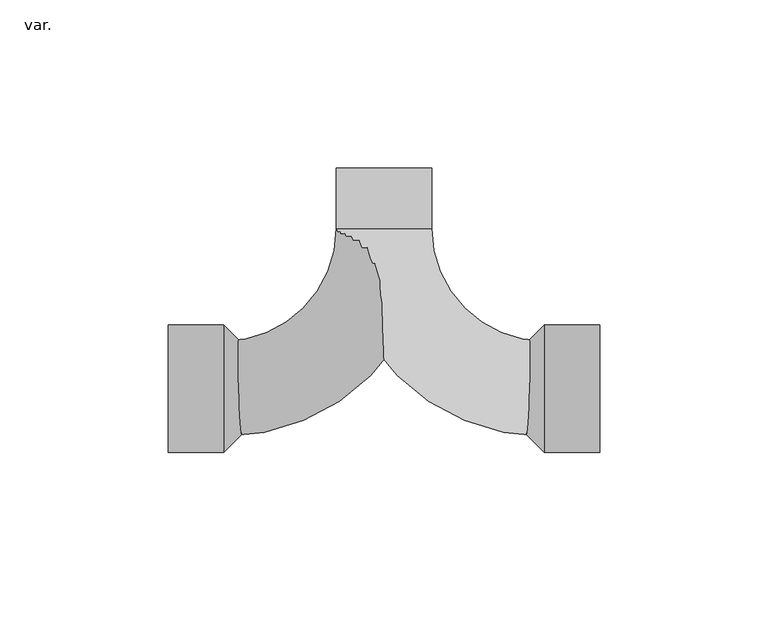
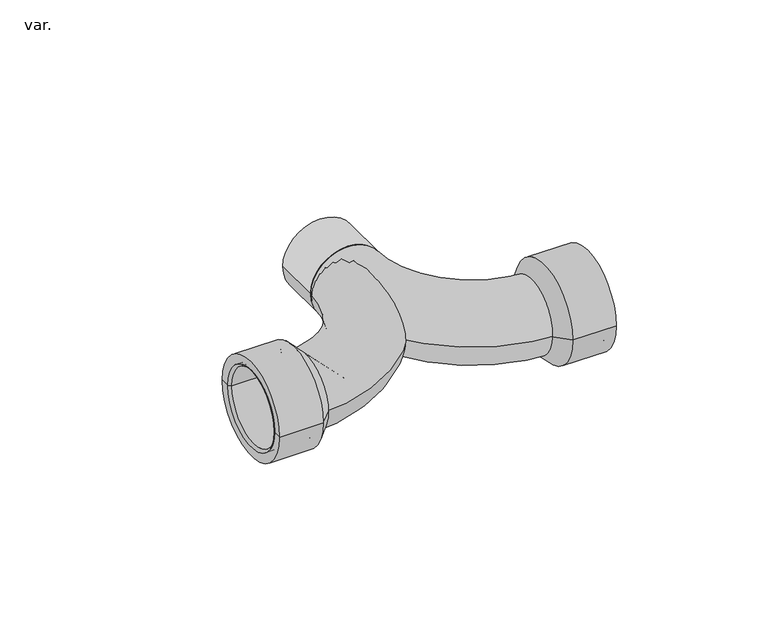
"""IFC4 building model written with IfcOpenShell, lengths in millimetres: pipe fitting geometry, AmancoWavin_ConexõesdeTubos_CPVCFlowGuardTêMisturador : var.."""

from ifc_helpers import new_model, si_unit, point, frame, origin, place, context, project, spatial, polyline, circle_curve, ellipse_curve, trimmed, source, transform, mapped, element, save
from ifc_brep_helpers import plane_surface, cylinder_surface, revolved_surface, advanced_brep


def var_d6b9dcd6(model_context):
    return source(origin(), model_context, "Body", "AdvancedBrep", [
        advanced_brep(
        [(14.15, 47.53, 0.0), (-14.15, 47.53, 0.0), (-14.15, 65.53, 0.0), (14.15, 65.53, 0.0), (11.125, 47.53, 0.0), (-11.125, 47.53, 0.0), (11.125, 65.53, 0.0), (-11.125, 65.53, 0.0)],
        [
            (0, 1, circle_curve(frame((0.0, 47.53, 0.0), z_axis=(0.0, 1.0, 0.0), x_axis=(-1.0, 0.0, 0.0)), 14.15)),
            (1, 2),
            (2, 3, circle_curve(frame((0.0, 65.53, 0.0), z_axis=(0.0, -1.0, 0.0), x_axis=(-1.0, 0.0, 0.0)), 14.15)),
            (3, 0),
            (1, 0, circle_curve(frame((0.0, 47.53, 0.0), z_axis=(0.0, 1.0, 0.0), x_axis=(-1.0, 0.0, 0.0)), 14.15)),
            (3, 2, circle_curve(frame((0.0, 65.53, 0.0), z_axis=(0.0, -1.0, 0.0), x_axis=(-1.0, 0.0, 0.0)), 14.15)),
            (4, 5, circle_curve(frame((0.0, 47.53, 0.0), z_axis=(0.0, 1.0, 0.0), x_axis=(-1.0, 0.0, 0.0)), 11.125)),
            (5, 1),
            (0, 4),
            (5, 4, circle_curve(frame((0.0, 47.53, 0.0), z_axis=(0.0, 1.0, 0.0), x_axis=(-1.0, 0.0, 0.0)), 11.125)),
            (6, 7, circle_curve(frame((0.0, 65.53, 0.0), z_axis=(0.0, 1.0, 0.0), x_axis=(-1.0, 0.0, 0.0)), 11.125)),
            (7, 5),
            (4, 6),
            (7, 6, circle_curve(frame((0.0, 65.53, 0.0), z_axis=(0.0, 1.0, 0.0), x_axis=(-1.0, 0.0, 0.0)), 11.125)),
            (2, 7),
            (6, 3),
        ],
        [
            cylinder_surface(frame((0.0, -2000.0, 0.0), z_axis=(0.0, -1.0, 0.0), x_axis=(-1.0, 0.0, 0.0)), 14.15),
            plane_surface(frame((0.0, 47.53, 0.0), z_axis=(0.0, -1.0, 0.0), x_axis=(-1.0, 0.0, 0.0))),
            revolved_surface(polyline([(-11.125, 47.52999999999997, 0.0), (-11.125, 65.5300000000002, 0.0)]), (0.0, -2000.0, 0.0), (0.0, -1.0, 0.0)),
            plane_surface(frame((0.0, 65.53, 0.0), z_axis=(0.0, 1.0, 0.0), x_axis=(-1.0, 0.0, 0.0))),
        ],
        [
            (0, [[1, 2, 3, 4]]),
            (0, [[5, -4, 6, -2]]),
            (1, [[7, 8, -1, 9]]),
            (1, [[10, -9, -5, -8]]),
            (2, [[11, 12, -7, 13]]),
            (2, [[14, -13, -10, -12]]),
            (3, [[-3, 15, -11, 16]]),
            (3, [[-6, -16, -14, -15]]),
        ],
    ),
        advanced_brep(
        [(47.53, 14.15, 0.0), (47.53, -14.15, 0.0), (14.15, 47.53, 0.0), (-14.15, 47.53, 0.0)],
        [
            (0, 1, circle_curve(frame((47.53, 0.0, 0.0), z_axis=(1.0, 0.0, 0.0), x_axis=(0.0, -1.0, 0.0)), 14.15)),
            (1, 0, circle_curve(frame((47.53, 0.0, 0.0), z_axis=(1.0, 0.0, 0.0), x_axis=(0.0, -1.0, 0.0)), 14.15)),
            (2, 3, circle_curve(frame((0.0, 47.53, 0.0), z_axis=(0.0, 1.0, 0.0), x_axis=(-1.0, 0.0, 0.0)), 14.15)),
            (3, 2, circle_curve(frame((0.0, 47.53, 0.0), z_axis=(0.0, 1.0, 0.0), x_axis=(-1.0, 0.0, 0.0)), 14.15)),
            (3, 1, circle_curve(frame((47.53, 47.53, 0.0), z_axis=(0.0, 0.0, 1.0), x_axis=(0.0, -1.0, 0.0)), 61.68)),
            (0, 2, circle_curve(frame((47.53, 47.53, 0.0), z_axis=(0.0, 0.0, -1.0), x_axis=(0.0, -1.0, 0.0)), 33.38)),
        ],
        [
            plane_surface(frame((47.53, 0.0, 0.0), z_axis=(1.0, 0.0, 0.0), x_axis=(0.0, 0.0, 1.0))),
            plane_surface(frame((0.0, 47.53, 0.0), z_axis=(0.0, 1.0, 0.0), x_axis=(0.0, 0.0, 1.0))),
            revolved_surface(trimmed(ellipse_curve(frame((47.53, 0.0, 0.0), z_axis=(1.0, 0.0, 0.0), x_axis=(0.0, -1.0, 0.0)), 14.15, 14.15), [point((47.53, 14.15, 0.0))], [point((47.53, -14.15, 0.0))], True, "CARTESIAN"), (47.53, 47.53, 0.0), (0.0, 0.0, -1.0)),
            revolved_surface(trimmed(ellipse_curve(frame((47.53, 0.0, 0.0), z_axis=(1.0, 0.0, 0.0), x_axis=(0.0, -1.0, 0.0)), 14.15, 14.15), [point((47.53, -14.15, 0.0))], [point((47.53, 14.15, 0.0))], True, "CARTESIAN"), (47.53, 47.53, 0.0), (0.0, 0.0, -1.0)),
        ],
        [
            (0, [[1, 2]]),
            (1, [[3, 4]]),
            (2, [[5, -1, 6, -4]]),
            (3, [[-6, -2, -5, -3]]),
        ],
    ),
        advanced_brep(
        [(-47.53, -14.15, 0.0), (-47.53, 14.15, 0.0), (14.15, 47.53, 0.0), (-14.15, 47.53, 0.0)],
        [
            (0, 1, circle_curve(frame((-47.53, 0.0, 0.0), z_axis=(-1.0, 0.0, 0.0), x_axis=(0.0, 1.0, 0.0)), 14.15)),
            (1, 0, circle_curve(frame((-47.53, 0.0, 0.0), z_axis=(-1.0, 0.0, 0.0), x_axis=(0.0, 1.0, 0.0)), 14.15)),
            (2, 3, circle_curve(frame((0.0, 47.53, 0.0), z_axis=(0.0, 1.0, 0.0), x_axis=(-1.0, 0.0, 0.0)), 14.15)),
            (3, 2, circle_curve(frame((0.0, 47.53, 0.0), z_axis=(0.0, 1.0, 0.0), x_axis=(-1.0, 0.0, 0.0)), 14.15)),
            (3, 1, circle_curve(frame((-47.53, 47.53, 0.0), z_axis=(0.0, 0.0, -1.0), x_axis=(0.0, -1.0, 0.0)), 33.38)),
            (0, 2, circle_curve(frame((-47.53, 47.53, 0.0), z_axis=(0.0, 0.0, 1.0), x_axis=(0.0, -1.0, 0.0)), 61.68)),
        ],
        [
            plane_surface(frame((-47.53, 0.0, 0.0), z_axis=(-1.0, 0.0, 0.0), x_axis=(0.0, 0.0, 1.0))),
            plane_surface(frame((0.0, 47.53, 0.0), z_axis=(0.0, 1.0, 0.0), x_axis=(0.0, 0.0, 1.0))),
            revolved_surface(trimmed(ellipse_curve(frame((-47.53, 0.0, 0.0), z_axis=(-1.0, 0.0, 0.0), x_axis=(0.0, 1.0, 0.0)), 14.15, 14.15), [point((-47.53, -14.15, 0.0))], [point((-47.53, 14.15, 0.0))], True, "CARTESIAN"), (-47.53, 47.53, 0.0), (0.0, 0.0, 1.0)),
            revolved_surface(trimmed(ellipse_curve(frame((-47.53, 0.0, 0.0), z_axis=(-1.0, 0.0, 0.0), x_axis=(0.0, 1.0, 0.0)), 14.15, 14.15), [point((-47.53, 14.15, 0.0))], [point((-47.53, -14.15, 0.0))], True, "CARTESIAN"), (-47.53, 47.53, 0.0), (0.0, 0.0, 1.0)),
        ],
        [
            (0, [[1, 2]]),
            (1, [[3, 4]]),
            (2, [[5, -1, 6, -4]]),
            (3, [[-6, -2, -5, -3]]),
        ],
    ),
        advanced_brep(
        [(-47.53, -14.4, 0.0), (-47.53, 14.4, 0.0), (-63.04, 14.4, 0.0), (-63.04, -14.4, 0.0), (-47.53, -15.4, 0.0), (-47.53, 15.4, 0.0), (-64.04, -15.4, 0.0), (-64.04, 15.4, 0.0)],
        [
            (0, 1, circle_curve(frame((-47.53, 0.0, 0.0), z_axis=(1.0, 0.0, 0.0), x_axis=(0.0, 1.0, 0.0)), 14.4)),
            (1, 2),
            (2, 3, circle_curve(frame((-63.04, 0.0, 0.0), z_axis=(-1.0, 0.0, 0.0), x_axis=(0.0, 1.0, 0.0)), 14.4)),
            (3, 0),
            (1, 0, circle_curve(frame((-47.53, 0.0, 0.0), z_axis=(1.0, 0.0, 0.0), x_axis=(0.0, 1.0, 0.0)), 14.4)),
            (3, 2, circle_curve(frame((-63.04, 0.0, 0.0), z_axis=(-1.0, 0.0, 0.0), x_axis=(0.0, 1.0, 0.0)), 14.4)),
            (4, 5, circle_curve(frame((-47.53, 0.0, 0.0), z_axis=(1.0, 0.0, 0.0), x_axis=(0.0, 1.0, 0.0)), 15.4)),
            (5, 1),
            (0, 4),
            (5, 4, circle_curve(frame((-47.53, 0.0, 0.0), z_axis=(1.0, 0.0, 0.0), x_axis=(0.0, 1.0, 0.0)), 15.4)),
            (6, 7, circle_curve(frame((-64.04, 0.0, 0.0), z_axis=(1.0, 0.0, 0.0), x_axis=(0.0, 1.0, 0.0)), 15.4)),
            (7, 5),
            (4, 6),
            (7, 6, circle_curve(frame((-64.04, 0.0, 0.0), z_axis=(1.0, 0.0, 0.0), x_axis=(0.0, 1.0, 0.0)), 15.4)),
            (2, 7),
            (6, 3),
        ],
        [
            revolved_surface(polyline([(-63.039999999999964, 14.4, 0.0), (-47.52999999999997, 14.4, 0.0)]), (-2000.247264, 0.0, 0.0), (-1.0, 0.0, 0.0)),
            plane_surface(frame((-47.53, 0.0, 0.0), z_axis=(1.0, 0.0, 0.0), x_axis=(0.0, 1.0, 0.0))),
            cylinder_surface(frame((-2000.247264, 0.0, 0.0), z_axis=(-1.0, 0.0, 0.0), x_axis=(0.0, 1.0, 0.0)), 15.4),
            revolved_surface(polyline([(-64.04, 15.4, 0.0), (-63.04, 14.4, 0.0)]), (-2000.247264, 0.0, 0.0), (-1.0, 0.0, 0.0)),
        ],
        [
            (0, [[1, 2, 3, 4]]),
            (0, [[5, -4, 6, -2]]),
            (1, [[7, 8, -1, 9]]),
            (1, [[10, -9, -5, -8]]),
            (2, [[11, 12, -7, 13]]),
            (2, [[14, -13, -10, -12]]),
            (3, [[-3, 15, -11, 16]]),
            (3, [[-6, -16, -14, -15]]),
        ],
    ),
        advanced_brep(
        [(64.04, -15.4, 0.0), (64.04, 15.4, 0.0), (63.04, 14.4, 0.0), (63.04, -14.4, 0.0), (47.53, -15.4, 0.0), (47.53, 15.4, 0.0), (47.53, -14.4, 0.0), (47.53, 14.4, 0.0)],
        [
            (0, 1, circle_curve(frame((64.04, 0.0, 0.0), z_axis=(1.0, 0.0, 0.0), x_axis=(0.0, 1.0, 0.0)), 15.4)),
            (1, 2),
            (2, 3, circle_curve(frame((63.04, 0.0, 0.0), z_axis=(-1.0, 0.0, 0.0), x_axis=(0.0, 1.0, 0.0)), 14.4)),
            (3, 0),
            (1, 0, circle_curve(frame((64.04, 0.0, 0.0), z_axis=(1.0, 0.0, 0.0), x_axis=(0.0, 1.0, 0.0)), 15.4)),
            (3, 2, circle_curve(frame((63.04, 0.0, 0.0), z_axis=(-1.0, 0.0, 0.0), x_axis=(0.0, 1.0, 0.0)), 14.4)),
            (4, 5, circle_curve(frame((47.53, 0.0, 0.0), z_axis=(1.0, 0.0, 0.0), x_axis=(0.0, 1.0, 0.0)), 15.4)),
            (5, 1),
            (0, 4),
            (5, 4, circle_curve(frame((47.53, 0.0, 0.0), z_axis=(1.0, 0.0, 0.0), x_axis=(0.0, 1.0, 0.0)), 15.4)),
            (6, 7, circle_curve(frame((47.53, 0.0, 0.0), z_axis=(1.0, 0.0, 0.0), x_axis=(0.0, 1.0, 0.0)), 14.4)),
            (7, 5),
            (4, 6),
            (7, 6, circle_curve(frame((47.53, 0.0, 0.0), z_axis=(1.0, 0.0, 0.0), x_axis=(0.0, 1.0, 0.0)), 14.4)),
            (2, 7),
            (6, 3),
        ],
        [
            revolved_surface(polyline([(63.04, 14.4, 0.0), (64.04, 15.4, 0.0)]), (-2000.247264, 0.0, 0.0), (-1.0, 0.0, 0.0)),
            cylinder_surface(frame((-2000.247264, 0.0, 0.0), z_axis=(-1.0, 0.0, 0.0), x_axis=(0.0, 1.0, 0.0)), 15.4),
            plane_surface(frame((47.53, 0.0, 0.0), z_axis=(-1.0, 0.0, 0.0), x_axis=(0.0, 1.0, 0.0))),
            revolved_surface(polyline([(47.52999999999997, 14.4, 0.0), (63.039999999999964, 14.4, 0.0)]), (-2000.247264, 0.0, 0.0), (-1.0, 0.0, 0.0)),
        ],
        [
            (0, [[1, 2, 3, 4]]),
            (0, [[5, -4, 6, -2]]),
            (1, [[7, 8, -1, 9]]),
            (1, [[10, -9, -5, -8]]),
            (2, [[11, 12, -7, 13]]),
            (2, [[14, -13, -10, -12]]),
            (3, [[-3, 15, -11, 16]]),
            (3, [[-6, -16, -14, -15]]),
        ],
    ),
        advanced_brep(
        [(-64.04, -18.95, 0.0), (-64.04, 18.95, 0.0), (-47.53, 18.95, 0.0), (-47.53, -18.95, 0.0), (-64.04, -15.4, 0.0), (-64.04, 15.4, 0.0), (-28.58, 0.0, 0.0), (-47.53, -15.4, 0.0), (-47.53, 15.4, 0.0), (-47.53, 0.0, 0.0)],
        [
            (0, 1, circle_curve(frame((-64.04, 0.0, 0.0), z_axis=(1.0, 0.0, 0.0), x_axis=(0.0, 1.0, 0.0)), 18.95)),
            (1, 2),
            (2, 3, circle_curve(frame((-47.53, 0.0, 0.0), z_axis=(-1.0, 0.0, 0.0), x_axis=(0.0, 1.0, 0.0)), 18.95)),
            (3, 0),
            (1, 0, circle_curve(frame((-64.04, 0.0, 0.0), z_axis=(1.0, 0.0, 0.0), x_axis=(0.0, 1.0, 0.0)), 18.95)),
            (3, 2, circle_curve(frame((-47.53, 0.0, 0.0), z_axis=(-1.0, 0.0, 0.0), x_axis=(0.0, 1.0, 0.0)), 18.95)),
            (4, 5, circle_curve(frame((-64.04, 0.0, 0.0), z_axis=(1.0, 0.0, 0.0), x_axis=(0.0, 1.0, 0.0)), 15.4)),
            (5, 1),
            (0, 4),
            (5, 4, circle_curve(frame((-64.04, 0.0, 0.0), z_axis=(1.0, 0.0, 0.0), x_axis=(0.0, 1.0, 0.0)), 15.4)),
            (2, 6),
            (6, 3),
            (7, 8, circle_curve(frame((-47.53, 0.0, 0.0), z_axis=(1.0, 0.0, 0.0), x_axis=(0.0, 1.0, 0.0)), 15.4)),
            (8, 5),
            (4, 7),
            (8, 7, circle_curve(frame((-47.53, 0.0, 0.0), z_axis=(1.0, 0.0, 0.0), x_axis=(0.0, 1.0, 0.0)), 15.4)),
            (9, 8),
            (7, 9),
        ],
        [
            cylinder_surface(frame((-1995.1775085, 0.0, 0.0), z_axis=(-1.0, 0.0, 0.0), x_axis=(0.0, 1.0, 0.0)), 18.95),
            plane_surface(frame((-64.04, 0.0, 0.0), z_axis=(-1.0, 0.0, 0.0), x_axis=(0.0, 1.0, 0.0))),
            revolved_surface(polyline([(-28.58, 0.0, 0.0), (-47.53, 18.95, 0.0)]), (-1995.1775085, 0.0, 0.0), (-1.0, 0.0, 0.0)),
            revolved_surface(polyline([(-64.03999999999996, 15.4, 0.0), (-47.52999999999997, 15.4, 0.0)]), (-1995.1775085, 0.0, 0.0), (-1.0, 0.0, 0.0)),
            plane_surface(frame((-47.53, 0.0, 0.0), z_axis=(-1.0, 0.0, 0.0), x_axis=(0.0, 1.0, 0.0))),
        ],
        [
            (0, [[1, 2, 3, 4]]),
            (0, [[5, -4, 6, -2]]),
            (1, [[7, 8, -1, 9]]),
            (1, [[10, -9, -5, -8]]),
            (2, [[-3, 11, 12]]),
            (2, [[-6, -12, -11]]),
            (3, [[13, 14, -7, 15]]),
            (3, [[16, -15, -10, -14]]),
            (4, [[17, -13, 18]]),
            (4, [[-18, -16, -17]]),
        ],
    ),
        advanced_brep(
        [(28.58, 0.0, 0.0), (47.53, 18.95, 0.0), (47.53, -18.95, 0.0), (64.04, -18.95, 0.0), (64.04, 18.95, 0.0), (64.04, 15.4, 0.0), (64.04, -15.4, 0.0), (47.53, -15.4, 0.0), (47.53, 15.4, 0.0), (47.53, 0.0, 0.0)],
        [
            (0, 1),
            (1, 2, circle_curve(frame((47.53, 0.0, 0.0), z_axis=(-1.0, 0.0, 0.0), x_axis=(0.0, 1.0, 0.0)), 18.95)),
            (2, 0),
            (2, 1, circle_curve(frame((47.53, 0.0, 0.0), z_axis=(-1.0, 0.0, 0.0), x_axis=(0.0, 1.0, 0.0)), 18.95)),
            (3, 4, circle_curve(frame((64.04, 0.0, 0.0), z_axis=(1.0, 0.0, 0.0), x_axis=(0.0, 1.0, 0.0)), 18.95)),
            (4, 5),
            (5, 6, circle_curve(frame((64.04, 0.0, 0.0), z_axis=(-1.0, 0.0, 0.0), x_axis=(0.0, 1.0, 0.0)), 15.4)),
            (6, 3),
            (4, 3, circle_curve(frame((64.04, 0.0, 0.0), z_axis=(1.0, 0.0, 0.0), x_axis=(0.0, 1.0, 0.0)), 18.95)),
            (6, 5, circle_curve(frame((64.04, 0.0, 0.0), z_axis=(-1.0, 0.0, 0.0), x_axis=(0.0, 1.0, 0.0)), 15.4)),
            (1, 4),
            (3, 2),
            (7, 8, circle_curve(frame((47.53, 0.0, 0.0), z_axis=(1.0, 0.0, 0.0), x_axis=(0.0, 1.0, 0.0)), 15.4)),
            (8, 9),
            (9, 7),
            (8, 7, circle_curve(frame((47.53, 0.0, 0.0), z_axis=(1.0, 0.0, 0.0), x_axis=(0.0, 1.0, 0.0)), 15.4)),
            (5, 8),
            (7, 6),
        ],
        [
            revolved_surface(polyline([(47.53, 18.95, 0.0), (28.58, 0.0, 0.0)]), (-1995.1775085, 0.0, 0.0), (-1.0, 0.0, 0.0)),
            plane_surface(frame((64.04, 0.0, 0.0), z_axis=(1.0, 0.0, 0.0), x_axis=(0.0, 1.0, 0.0))),
            cylinder_surface(frame((-1995.1775085, 0.0, 0.0), z_axis=(-1.0, 0.0, 0.0), x_axis=(0.0, 1.0, 0.0)), 18.95),
            plane_surface(frame((47.53, 0.0, 0.0), z_axis=(1.0, 0.0, 0.0), x_axis=(0.0, 1.0, 0.0))),
            revolved_surface(polyline([(47.52999999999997, 15.4, 0.0), (64.03999999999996, 15.4, 0.0)]), (-1995.1775085, 0.0, 0.0), (-1.0, 0.0, 0.0)),
        ],
        [
            (0, [[1, 2, 3]]),
            (0, [[-3, 4, -1]]),
            (1, [[5, 6, 7, 8]]),
            (1, [[9, -8, 10, -6]]),
            (2, [[-2, 11, -5, 12]]),
            (2, [[-4, -12, -9, -11]]),
            (3, [[13, 14, 15]]),
            (3, [[16, -15, -14]]),
            (4, [[-7, 17, -13, 18]]),
            (4, [[-10, -18, -16, -17]]),
        ],
    ),
    ])


if __name__ == "__main__":
    model = new_model("IFC4")
    model_context = context("Model", 3, world=origin())
    ifc_project = project(units=[si_unit("LENGTHUNIT", "METRE", prefix="MILLI")], contexts=[model_context])
    site = spatial("IfcSite", under=ifc_project)
    building = spatial("IfcBuilding", under=site)
    placement = place(None, origin())
    var_shape = var_d6b9dcd6(model_context)
    element("IfcPipeFitting", 1, ObjectType="AmancoWavin_ConexõesdeTubos_CPVCFlowGuardTêMisturador : var.", at=placement, inside=building, context=model_context, shape_type="MappedRepresentation", body=[
        mapped(var_shape, transform((0.0, 0.0, 0.0), x_axis=(1.0, 0.0, 0.0), y_axis=(0.0, 1.0, 0.0), z_axis=(0.0, 0.0, 1.0))),
    ])
    save(model, "model.ifc")
